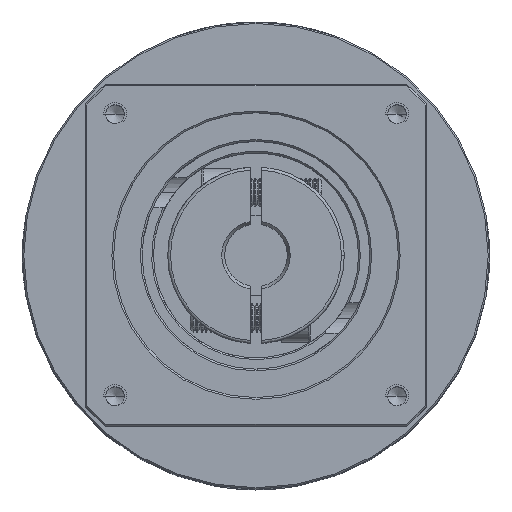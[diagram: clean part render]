
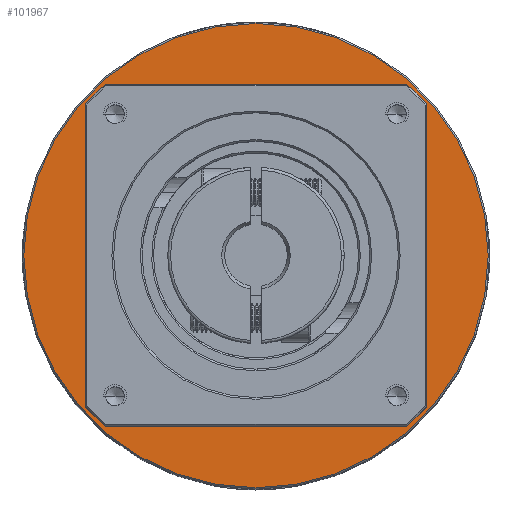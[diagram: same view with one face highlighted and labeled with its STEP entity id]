
A CAD part, top view. The second image highlights one B-rep face of the part: STEP entity #101967.
In plain terms, the highlighted planar face has unit normal (0, 0, 1).
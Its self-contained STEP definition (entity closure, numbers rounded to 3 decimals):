
#2740 = CARTESIAN_POINT ( 'NONE',  ( -64.347, 16.502, -14.546 ) ) ;
#3088 = DIRECTION ( 'NONE',  ( -1., 0., 0. ) ) ;
#4852 = CIRCLE ( 'NONE', #59723, 30. ) ;
#5960 = AXIS2_PLACEMENT_3D ( 'NONE', #2740, #70693, #12547 ) ;
#6519 = VERTEX_POINT ( 'NONE', #8717 ) ;
#8717 = CARTESIAN_POINT ( 'NONE',  ( -105.097, 16.502, -14.546 ) ) ;
#9282 = AXIS2_PLACEMENT_3D ( 'NONE', #22870, #90730, #32653 ) ;
#10520 = CARTESIAN_POINT ( 'NONE',  ( -23.597, 16.502, -14.546 ) ) ;
#10700 = ORIENTED_EDGE ( 'NONE', *, *, #109239, .F. ) ;
#11195 = EDGE_CURVE ( 'NONE', #81642, #49316, #78813, .T. ) ;
#12133 = PLANE ( 'NONE',  #5960 ) ;
#12547 = DIRECTION ( 'NONE',  ( 1., 0., 0. ) ) ;
#13576 = CIRCLE ( 'NONE', #22345, 40.75 ) ;
#15512 = FACE_BOUND ( 'NONE', #59507, .T. ) ;
#15514 = EDGE_LOOP ( 'NONE', ( #10700, #39610 ) ) ;
#22345 = AXIS2_PLACEMENT_3D ( 'NONE', #28979, #96854, #38646 ) ;
#22870 = CARTESIAN_POINT ( 'NONE',  ( -64.347, 16.502, -14.546 ) ) ;
#28979 = CARTESIAN_POINT ( 'NONE',  ( -64.347, 16.502, -14.546 ) ) ;
#32653 = DIRECTION ( 'NONE',  ( -1., 0., 0. ) ) ;
#36298 = AXIS2_PLACEMENT_3D ( 'NONE', #96385, #38188, #106065 ) ;
#38188 = DIRECTION ( 'NONE',  ( 0., 0., -1. ) ) ;
#38646 = DIRECTION ( 'NONE',  ( -1., 0., 0. ) ) ;
#39610 = ORIENTED_EDGE ( 'NONE', *, *, #42099, .F. ) ;
#41155 = ORIENTED_EDGE ( 'NONE', *, *, #70444, .T. ) ;
#42099 = EDGE_CURVE ( 'NONE', #93355, #6519, #13576, .T. ) ;
#49316 = VERTEX_POINT ( 'NONE', #105790 ) ;
#50819 = CARTESIAN_POINT ( 'NONE',  ( -94.347, 16.502, -14.546 ) ) ;
#59507 = EDGE_LOOP ( 'NONE', ( #78555, #41155 ) ) ;
#59723 = AXIS2_PLACEMENT_3D ( 'NONE', #119153, #61265, #3088 ) ;
#61265 = DIRECTION ( 'NONE',  ( 0., 0., -1. ) ) ;
#67141 = FACE_OUTER_BOUND ( 'NONE', #15514, .T. ) ;
#70444 = EDGE_CURVE ( 'NONE', #49316, #81642, #4852, .T. ) ;
#70693 = DIRECTION ( 'NONE',  ( 0., 0., 1. ) ) ;
#78555 = ORIENTED_EDGE ( 'NONE', *, *, #11195, .T. ) ;
#78813 = CIRCLE ( 'NONE', #9282, 30. ) ;
#81642 = VERTEX_POINT ( 'NONE', #50819 ) ;
#90730 = DIRECTION ( 'NONE',  ( 0., 0., -1. ) ) ;
#93355 = VERTEX_POINT ( 'NONE', #10520 ) ;
#96385 = CARTESIAN_POINT ( 'NONE',  ( -64.347, 16.502, -14.546 ) ) ;
#96854 = DIRECTION ( 'NONE',  ( 0., 0., -1. ) ) ;
#101967 = ADVANCED_FACE ( 'NONE', ( #67141, #15512 ), #12133, .T. ) ;
#105790 = CARTESIAN_POINT ( 'NONE',  ( -34.347, 16.502, -14.546 ) ) ;
#106065 = DIRECTION ( 'NONE',  ( -1., 0., 0. ) ) ;
#107332 = CIRCLE ( 'NONE', #36298, 40.75 ) ;
#109239 = EDGE_CURVE ( 'NONE', #6519, #93355, #107332, .T. ) ;
#119153 = CARTESIAN_POINT ( 'NONE',  ( -64.347, 16.502, -14.546 ) ) ;
